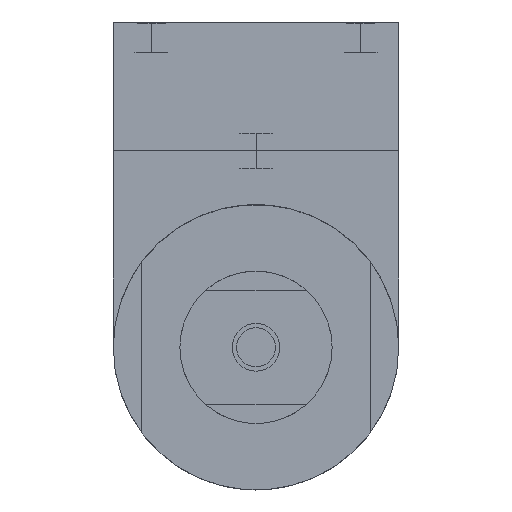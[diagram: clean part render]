
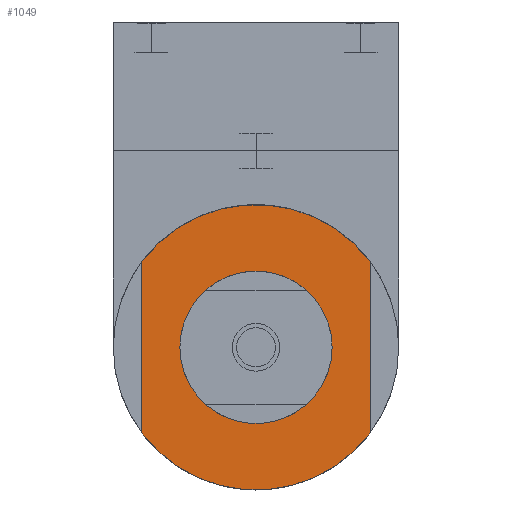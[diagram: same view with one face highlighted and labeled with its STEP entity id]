
A CAD part, front view. The second image highlights one B-rep face of the part: STEP entity #1049.
In plain terms, the highlighted planar face has unit normal (0, -1, 0) as drawn and (0, 0, 1) by its records, which use the part's own axes.
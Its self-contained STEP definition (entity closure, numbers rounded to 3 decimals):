
#1049=ADVANCED_FACE('1:1855',(#2156,#2157),#2158,.T.);
#2156=FACE_OUTER_BOUND('',#3456,.T.);
#2157=FACE_BOUND('',#3457,.T.);
#2158=PLANE('',#3458);
#3456=EDGE_LOOP('',(#5321,#5322,#5323,#5324));
#3457=EDGE_LOOP('',(#5325,#5326));
#3458=AXIS2_PLACEMENT_3D('',#5327,#5328,#5329);
#5321=ORIENTED_EDGE('',*,*,#8120,.T.);
#5322=ORIENTED_EDGE('',*,*,#8121,.F.);
#5323=ORIENTED_EDGE('',*,*,#7838,.F.);
#5324=ORIENTED_EDGE('',*,*,#8122,.F.);
#5325=ORIENTED_EDGE('',*,*,#8123,.F.);
#5326=ORIENTED_EDGE('',*,*,#7658,.F.);
#5327=CARTESIAN_POINT('',(0.0,0.0,17.5));
#5328=DIRECTION('',(0.0,0.0,1.0));
#5329=DIRECTION('',(1.0,0.0,0.0));
#7658=EDGE_CURVE('',#9317,#9319,#9320,.T.);
#7838=EDGE_CURVE('',#9628,#9623,#9630,.T.);
#8120=EDGE_CURVE('',#10090,#10091,#10092,.T.);
#8121=EDGE_CURVE('',#9623,#10091,#10093,.F.);
#8122=EDGE_CURVE('',#10090,#9628,#10094,.F.);
#8123=EDGE_CURVE('',#9319,#9317,#10095,.T.);
#9317=VERTEX_POINT('',#12008);
#9319=VERTEX_POINT('',#12011);
#9320=CIRCLE('',#12012,7.55);
#9623=VERTEX_POINT('',#12463);
#9628=VERTEX_POINT('',#12470);
#9630=LINE('',#12473,#12474);
#10090=VERTEX_POINT('',#13238);
#10091=VERTEX_POINT('',#13239);
#10092=LINE('',#13240,#13241);
#10093=CIRCLE('',#13242,15.0);
#10094=CIRCLE('',#13243,15.0);
#10095=CIRCLE('',#13244,7.55);
#12008=CARTESIAN_POINT('',(-7.539,-0.191,17.5));
#12011=CARTESIAN_POINT('',(7.561,-0.191,17.5));
#12012=AXIS2_PLACEMENT_3D('',#15932,#15933,#15934);
#12463=CARTESIAN_POINT('',(12.011,-9.191,17.5));
#12470=CARTESIAN_POINT('',(12.011,8.809,17.5));
#12473=CARTESIAN_POINT('',(12.011,-4.596,17.5));
#12474=VECTOR('',#16201,1.0);
#13238=CARTESIAN_POINT('',(-11.989,8.809,17.5));
#13239=CARTESIAN_POINT('',(-11.989,-9.191,17.5));
#13240=CARTESIAN_POINT('',(-11.989,-4.596,17.5));
#13241=VECTOR('',#16611,1.0);
#13242=AXIS2_PLACEMENT_3D('',#16612,#16613,#16614);
#13243=AXIS2_PLACEMENT_3D('',#16615,#16616,#16617);
#13244=AXIS2_PLACEMENT_3D('',#16618,#16619,#16620);
#15932=CARTESIAN_POINT('',(0.011,-0.191,17.5));
#15933=DIRECTION('',(0.0,0.0,1.0));
#15934=DIRECTION('',(-1.0,0.0,0.0));
#16201=DIRECTION('',(0.,-1.0,0.0));
#16611=DIRECTION('',(0.,-1.0,0.0));
#16612=CARTESIAN_POINT('',(0.011,-0.191,17.5));
#16613=DIRECTION('',(0.0,0.0,1.0));
#16614=DIRECTION('',(1.0,0.0,0.0));
#16615=CARTESIAN_POINT('',(0.011,-0.191,17.5));
#16616=DIRECTION('',(0.0,0.0,1.0));
#16617=DIRECTION('',(1.0,0.0,0.0));
#16618=CARTESIAN_POINT('',(0.011,-0.191,17.5));
#16619=DIRECTION('',(0.0,0.0,1.0));
#16620=DIRECTION('',(-1.0,0.0,0.0));
